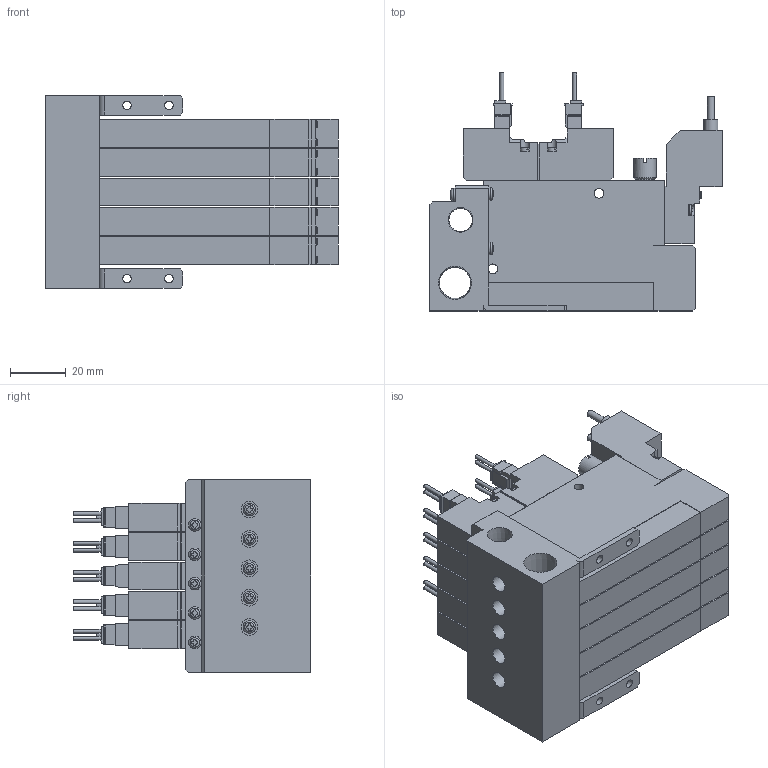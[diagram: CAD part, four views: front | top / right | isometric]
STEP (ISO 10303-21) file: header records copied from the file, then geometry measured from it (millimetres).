
FILE_DESCRIPTION(('STEP AP203'),'1');
FILE_NAME('V8C5SC505_3D.stp','2024-09-04T22:52:11',(' '),(' '),'Spatial InterOp 3D',' ',' ');
FILE_SCHEMA(('CONFIG_CONTROL_DESIGN'));
Length unit declared in the file: millimetre
Products named in the file (5): BSC1M※※V8C5SC505; Solenoid valve S; Pressure Sensor V8; Unit-C; BaseMC50R
Assembly tree (16 placements, depth 2):
  BSC1M※※V8C5SC505
    Solenoid valve S  x5
    Pressure Sensor V8  x5
    Unit-C  x5
    BaseMC50R
Bounding box: 104.5 x 85.05 x 69 mm (x, y, z)
Volume: 286872.8 mm3; surface area: 100458.5 mm2
Topology: 16 solids, 16 shells, 2012 faces, 5396 edges, 3570 vertices
Faces by surface type: plane 1547, cylinder 358, cone 49, torus 34, sphere 24
Full cylindrical faces by diameter (mm): 1.4 x20, 2.5 x25, 3 x24, 3.5 x30, 4 x5, 4.134 x10, 4.5 x14, 5 x5, 5.5 x5, 6 x5, 7 x10, 8 x5, 8.422 x1, 11.233 x1
Entity records: 19403 total; most frequent: CARTESIAN_POINT 4443, DIRECTION 2982, ORIENTED_EDGE 2888, EDGE_CURVE 1444, VERTEX_POINT 1022, AXIS2_PLACEMENT_3D 1008, LINE 966, VECTOR 966
